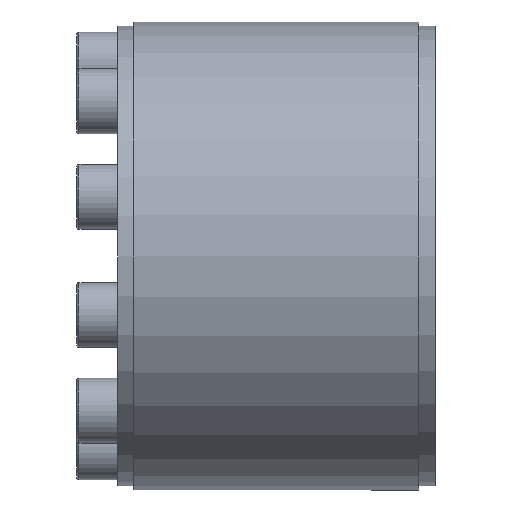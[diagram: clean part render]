
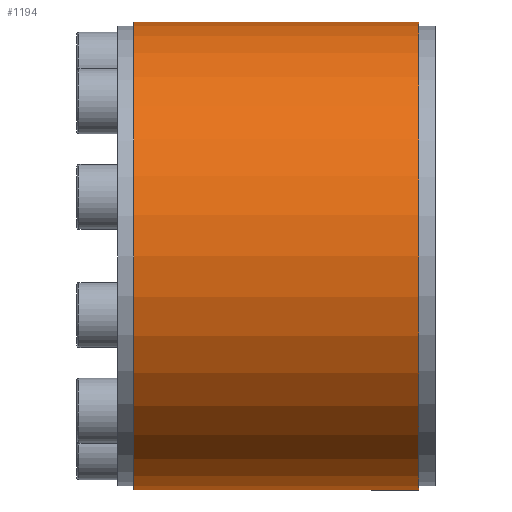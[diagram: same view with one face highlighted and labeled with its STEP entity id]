
A CAD part, left-side view. The second image highlights one B-rep face of the part: STEP entity #1194.
In plain terms, the highlighted cylindrical face has radius 57.5 mm (diameter 115 mm), a partial arc.
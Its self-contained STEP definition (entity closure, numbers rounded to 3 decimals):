
#55 = VERTEX_POINT ( 'NONE', #157 ) ;
#115 = VERTEX_POINT ( 'NONE', #1645 ) ;
#152 = EDGE_CURVE ( 'NONE', #303, #55, #1029, .T. ) ;
#157 = CARTESIAN_POINT ( 'NONE',  ( 0., -35., -57.5 ) ) ;
#183 = AXIS2_PLACEMENT_3D ( 'NONE', #2020, #3770, #1695 ) ;
#187 = VECTOR ( 'NONE', #879, 1000. ) ;
#303 = VERTEX_POINT ( 'NONE', #3756 ) ;
#310 = ORIENTED_EDGE ( 'NONE', *, *, #884, .T. ) ;
#412 = LINE ( 'NONE', #3635, #3793 ) ;
#425 = ORIENTED_EDGE ( 'NONE', *, *, #1077, .T. ) ;
#879 = DIRECTION ( 'NONE',  ( 0., -1., 0. ) ) ;
#884 = EDGE_CURVE ( 'NONE', #115, #55, #1441, .T. ) ;
#996 = DIRECTION ( 'NONE',  ( 0., 0., -1. ) ) ;
#1029 = CIRCLE ( 'NONE', #183, 57.5 ) ;
#1051 = DIRECTION ( 'NONE',  ( 0., 0., -1. ) ) ;
#1077 = EDGE_CURVE ( 'NONE', #2965, #115, #3100, .T. ) ;
#1194 = ADVANCED_FACE ( 'NONE', ( #1710 ), #2376, .T. ) ;
#1441 = LINE ( 'NONE', #2902, #187 ) ;
#1645 = CARTESIAN_POINT ( 'NONE',  ( 0., 35., -57.5 ) ) ;
#1695 = DIRECTION ( 'NONE',  ( 0., 0., -1. ) ) ;
#1710 = FACE_OUTER_BOUND ( 'NONE', #3143, .T. ) ;
#1728 = EDGE_CURVE ( 'NONE', #2965, #303, #412, .T. ) ;
#1934 = DIRECTION ( 'NONE',  ( 0., -1., 0. ) ) ;
#2020 = CARTESIAN_POINT ( 'NONE',  ( 0., -35., 0. ) ) ;
#2076 = AXIS2_PLACEMENT_3D ( 'NONE', #3346, #3331, #996 ) ;
#2158 = ORIENTED_EDGE ( 'NONE', *, *, #152, .F. ) ;
#2305 = ORIENTED_EDGE ( 'NONE', *, *, #1728, .F. ) ;
#2376 = CYLINDRICAL_SURFACE ( 'NONE', #3361, 57.5 ) ;
#2477 = CARTESIAN_POINT ( 'NONE',  ( 0., 0., 0. ) ) ;
#2754 = DIRECTION ( 'NONE',  ( 0., -1., 0. ) ) ;
#2902 = CARTESIAN_POINT ( 'NONE',  ( 0., 0., -57.5 ) ) ;
#2965 = VERTEX_POINT ( 'NONE', #3255 ) ;
#3100 = CIRCLE ( 'NONE', #2076, 57.5 ) ;
#3143 = EDGE_LOOP ( 'NONE', ( #2305, #425, #310, #2158 ) ) ;
#3255 = CARTESIAN_POINT ( 'NONE',  ( 0., 35., 57.5 ) ) ;
#3331 = DIRECTION ( 'NONE',  ( 0., -1., 0. ) ) ;
#3346 = CARTESIAN_POINT ( 'NONE',  ( 0., 35., 0. ) ) ;
#3361 = AXIS2_PLACEMENT_3D ( 'NONE', #2477, #1934, #1051 ) ;
#3635 = CARTESIAN_POINT ( 'NONE',  ( 0., 0., 57.5 ) ) ;
#3756 = CARTESIAN_POINT ( 'NONE',  ( 0., -35., 57.5 ) ) ;
#3770 = DIRECTION ( 'NONE',  ( 0., -1., 0. ) ) ;
#3793 = VECTOR ( 'NONE', #2754, 1000. ) ;
